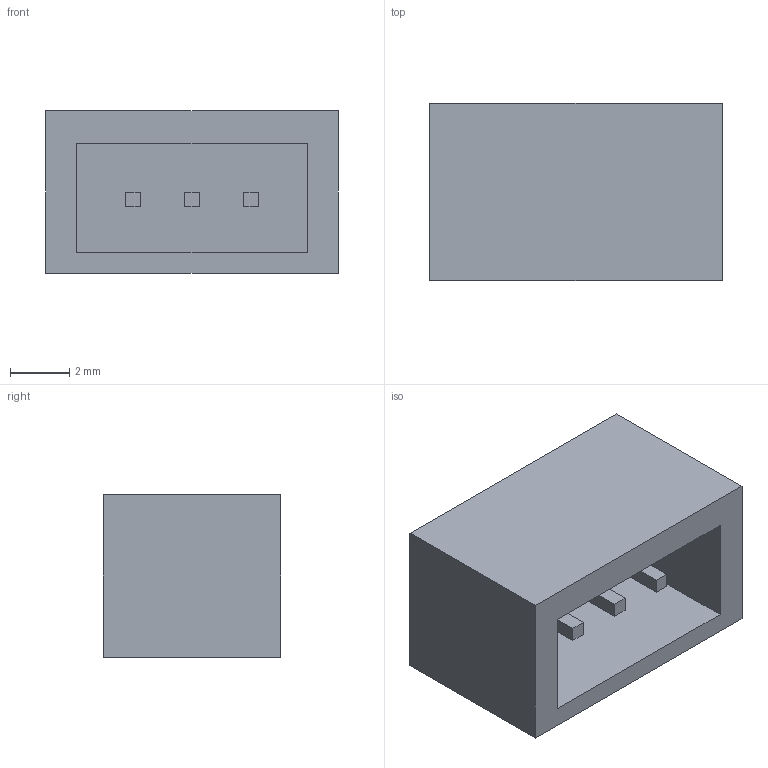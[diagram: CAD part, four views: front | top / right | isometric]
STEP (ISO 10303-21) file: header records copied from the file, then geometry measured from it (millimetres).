
FILE_DESCRIPTION(('Open CASCADE Model'),'2;1');
FILE_NAME('Open CASCADE Shape Model','2026-09-07T01:16:41',('Author'),( 'Open CASCADE'),'Open CASCADE STEP processor 7.9','Open CASCADE 7.9' ,'Unknown');
FILE_SCHEMA(('AUTOMOTIVE_DESIGN { 1 0 10303 214 1 1 1 1 }'));
Length unit declared in the file: millimetre
Products named in the file (5): JST_S3B_PH_SM4_TB_envelope; body_0; body_1; body_2; body_3
Assembly tree (4 placements, depth 2):
  JST_S3B_PH_SM4_TB_envelope
    body_0
    body_1
    body_2
    body_3
Bounding box: 9.9 x 6 x 5.5 mm (x, y, z)
Volume: 180.4 mm3; surface area: 444.8 mm2
Topology: 4 solids, 4 shells, 29 faces, 60 edges, 40 vertices
Faces by surface type: plane 29
Entity records: 1636 total; most frequent: CARTESIAN_POINT 262, DIRECTION 240, LINE 172, VECTOR 172, ORIENTED_EDGE 120, PCURVE 120, DEFINITIONAL_REPRESENTATION 120, EDGE_CURVE 60
